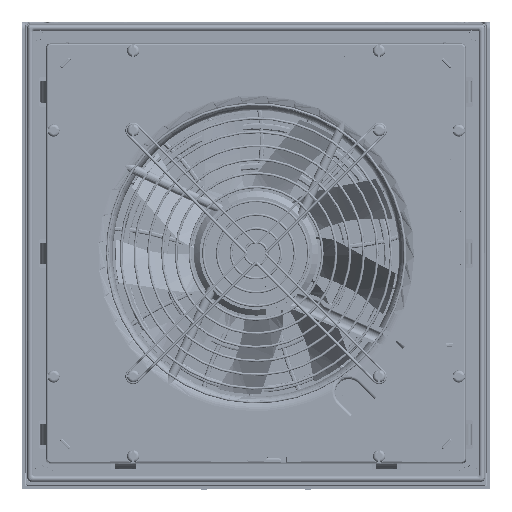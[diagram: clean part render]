
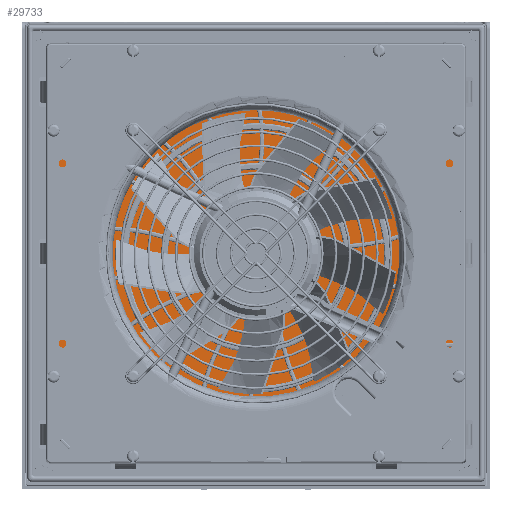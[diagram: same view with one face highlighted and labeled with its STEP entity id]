
A CAD part, top view. The second image highlights one B-rep face of the part: STEP entity #29733.
In plain terms, the highlighted planar face has unit normal (0, 0, 1) as drawn and (0, 0, -1) by its records, which use the part's own axes.
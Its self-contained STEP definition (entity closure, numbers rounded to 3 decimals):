
#22679=FACE_OUTER_BOUND('',#52571,.T.);
#29733=ADVANCED_FACE('',(#22679),#31782,.F.);
#31782=PLANE('',#131865);
#36747=LINE('',#390784,#41957);
#36749=LINE('',#390788,#41959);
#36750=LINE('',#390790,#41960);
#36751=LINE('',#390792,#41961);
#41957=VECTOR('',#156817,1.);
#41959=VECTOR('',#156821,1.);
#41960=VECTOR('',#156822,1.);
#41961=VECTOR('',#156823,1.);
#52571=EDGE_LOOP('',(#88059,#88060,#88061,#88062));
#88059=ORIENTED_EDGE('',*,*,#117736,.F.);
#88060=ORIENTED_EDGE('',*,*,#117738,.F.);
#88061=ORIENTED_EDGE('',*,*,#117739,.T.);
#88062=ORIENTED_EDGE('',*,*,#117740,.T.);
#99960=VERTEX_POINT('',#390783);
#99961=VERTEX_POINT('',#390785);
#99962=VERTEX_POINT('',#390789);
#99963=VERTEX_POINT('',#390791);
#117736=EDGE_CURVE('',#99960,#99961,#36747,.T.);
#117738=EDGE_CURVE('',#99962,#99960,#36749,.T.);
#117739=EDGE_CURVE('',#99962,#99963,#36750,.T.);
#117740=EDGE_CURVE('',#99963,#99961,#36751,.T.);
#131865=AXIS2_PLACEMENT_3D('',#390793,#156824,#156825);
#156817=DIRECTION('',(1.,0.,0.));
#156821=DIRECTION('',(0.,-1.,0.));
#156822=DIRECTION('',(1.,0.,0.));
#156823=DIRECTION('',(0.,-1.,0.));
#156824=DIRECTION('',(0.,0.,1.));
#156825=DIRECTION('',(0.,-1.,0.));
#390783=CARTESIAN_POINT('',(-591.72,-9.42,-1.901));
#390784=CARTESIAN_POINT('',(-450.22,-9.42,-1.901));
#390785=CARTESIAN_POINT('',(-308.72,-9.42,-1.901));
#390788=CARTESIAN_POINT('',(-591.72,273.58,-1.901));
#390789=CARTESIAN_POINT('',(-591.72,273.58,-1.901));
#390790=CARTESIAN_POINT('',(-450.22,273.58,-1.901));
#390791=CARTESIAN_POINT('',(-308.72,273.58,-1.901));
#390792=CARTESIAN_POINT('',(-308.72,273.58,-1.901));
#390793=CARTESIAN_POINT('',(-450.22,273.58,-1.901));
